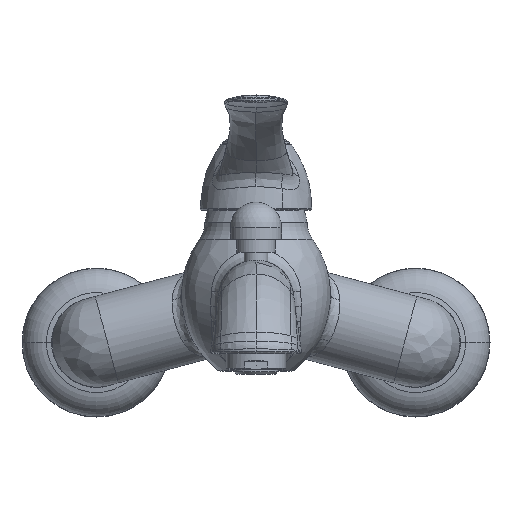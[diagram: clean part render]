
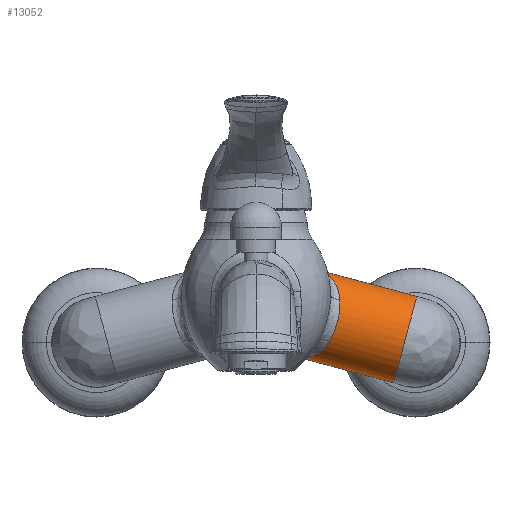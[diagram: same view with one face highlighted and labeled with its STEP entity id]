
A CAD part, top view. The second image highlights one B-rep face of the part: STEP entity #13052.
In plain terms, the highlighted cylindrical face has radius 21 mm (diameter 42 mm), a partial arc.
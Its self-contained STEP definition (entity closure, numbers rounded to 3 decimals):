
#2111=CARTESIAN_POINT('',(39.378,-1.506,23.415));
#2112=CARTESIAN_POINT('',(39.403,-1.915,23.628));
#2113=CARTESIAN_POINT('',(39.433,-2.741,24.03));
#2114=CARTESIAN_POINT('',(39.424,-3.999,24.554));
#2115=CARTESIAN_POINT('',(39.361,-5.272,24.999));
#2116=CARTESIAN_POINT('',(39.247,-6.554,25.364));
#2117=CARTESIAN_POINT('',(39.084,-7.84,25.649));
#2118=CARTESIAN_POINT('',(38.874,-9.127,25.852));
#2119=CARTESIAN_POINT('',(38.618,-10.411,25.974));
#2120=CARTESIAN_POINT('',(38.319,-11.687,26.014));
#2121=CARTESIAN_POINT('',(37.976,-12.951,25.972));
#2122=CARTESIAN_POINT('',(37.592,-14.199,25.848));
#2123=CARTESIAN_POINT('',(37.167,-15.426,25.644));
#2124=CARTESIAN_POINT('',(36.702,-16.629,25.358));
#2125=CARTESIAN_POINT('',(36.198,-17.802,24.993));
#2126=CARTESIAN_POINT('',(35.655,-18.94,24.548));
#2127=CARTESIAN_POINT('',(35.073,-20.038,24.026));
#2128=CARTESIAN_POINT('',(34.661,-20.741,23.627));
#2129=CARTESIAN_POINT('',(34.448,-21.083,23.415));
#2131=CARTESIAN_POINT('',(27.897,12.862,5.));
#2132=CARTESIAN_POINT('',(28.425,12.72,5.479));
#2133=CARTESIAN_POINT('',(29.434,12.416,6.441));
#2134=CARTESIAN_POINT('',(30.812,11.892,7.884));
#2135=CARTESIAN_POINT('',(32.062,11.3,9.313));
#2136=CARTESIAN_POINT('',(33.19,10.641,10.717));
#2137=CARTESIAN_POINT('',(34.202,9.915,12.087));
#2138=CARTESIAN_POINT('',(35.106,9.127,13.416));
#2139=CARTESIAN_POINT('',(35.907,8.277,14.697));
#2140=CARTESIAN_POINT('',(36.613,7.371,15.926));
#2141=CARTESIAN_POINT('',(37.228,6.411,17.099));
#2142=CARTESIAN_POINT('',(37.758,5.4,18.21));
#2143=CARTESIAN_POINT('',(38.208,4.343,19.257));
#2144=CARTESIAN_POINT('',(38.581,3.242,20.236));
#2145=CARTESIAN_POINT('',(38.882,2.104,21.146));
#2146=CARTESIAN_POINT('',(39.115,0.93,21.982));
#2147=CARTESIAN_POINT('',(39.282,-0.273,
22.744));
#2148=CARTESIAN_POINT('',(39.353,-1.093,23.2));
#2149=CARTESIAN_POINT('',(39.378,-1.506,23.415));
#2151=CARTESIAN_POINT('',(70.17,-20.206,5.));
#2152=DIRECTION('',(-0.966,0.259,0.));
#2153=DIRECTION('',(-0.259,-0.966,0.));
#2154=AXIS2_PLACEMENT_3D('',#2151,#2152,#2153);
#2156=DIRECTION('',(0.966,-0.259,0.));
#2157=VECTOR('',#2156,49.772);
#2158=CARTESIAN_POINT('',(16.659,-27.608,5.));
#2159=LINE('',#2158,#2157);
#2160=CARTESIAN_POINT('',(34.448,-21.083,23.415));
#2161=CARTESIAN_POINT('',(34.237,-21.423,23.206));
#2162=CARTESIAN_POINT('',(33.803,-22.086,22.762));
#2163=CARTESIAN_POINT('',(33.115,-23.027,22.027));
#2164=CARTESIAN_POINT('',(32.388,-23.909,21.223));
#2165=CARTESIAN_POINT('',(31.622,-24.729,20.355));
#2166=CARTESIAN_POINT('',(30.815,-25.48,19.425));
#2167=CARTESIAN_POINT('',(29.965,-26.159,18.437));
#2168=CARTESIAN_POINT('',(29.072,-26.762,17.395));
#2169=CARTESIAN_POINT('',(28.131,-27.282,16.302));
#2170=CARTESIAN_POINT('',(27.138,-27.717,15.163));
#2171=CARTESIAN_POINT('',(26.091,-28.062,13.983));
#2172=CARTESIAN_POINT('',(24.983,-28.314,12.764));
#2173=CARTESIAN_POINT('',(23.808,-28.467,11.513));
#2174=CARTESIAN_POINT('',(22.559,-28.518,10.234));
#2175=CARTESIAN_POINT('',(21.229,-28.463,8.933));
#2176=CARTESIAN_POINT('',(19.808,-28.297,7.618));
#2177=CARTESIAN_POINT('',(18.293,-28.019,6.301));
#2178=CARTESIAN_POINT('',(17.215,-27.757,5.431));
#2179=CARTESIAN_POINT('',(16.659,-27.608,5.));
#2186=CARTESIAN_POINT('',(27.897,12.862,5.));
#2197=DIRECTION('',(0.966,-0.259,0.));
#2198=VECTOR('',#2197,49.391);
#2199=CARTESIAN_POINT('',(27.897,12.862,5.));
#2200=LINE('',#2199,#2198);
#7305=CARTESIAN_POINT('',(64.735,-40.49,5.));
#7306=CARTESIAN_POINT('',(75.606,0.079,5.));
#7307=VERTEX_POINT('',#7305);
#7308=VERTEX_POINT('',#7306);
#7438=VERTEX_POINT('',#2111);
#7439=VERTEX_POINT('',#2129);
#7441=VERTEX_POINT('',#2179);
#7451=VERTEX_POINT('',#2186);
#13037=CARTESIAN_POINT('',(5.435,-2.86,5.));
#13038=DIRECTION('',(-0.966,0.259,0.));
#13039=DIRECTION('',(0.,0.,1.));
#13040=AXIS2_PLACEMENT_3D('',#13037,#13038,#13039);
#13041=CYLINDRICAL_SURFACE('',#13040,21.);
#13042=ORIENTED_EDGE('',*,*,#12589,.F.);
#13043=ORIENTED_EDGE('',*,*,#12655,.F.);
#13045=ORIENTED_EDGE('',*,*,#13044,.T.);
#13047=ORIENTED_EDGE('',*,*,#13046,.F.);
#13048=ORIENTED_EDGE('',*,*,#13028,.F.);
#13049=ORIENTED_EDGE('',*,*,#12542,.F.);
#13050=EDGE_LOOP('',(#13042,#13043,#13045,#13047,#13048,#13049));
#13051=FACE_OUTER_BOUND('',#13050,.F.);
#13052=ADVANCED_FACE('',(#13051),#13041,.T.);
#2130=B_SPLINE_CURVE_WITH_KNOTS('',3,(#2111,#2112,#2113,#2114,#2115,#2116,#2117,
#2118,#2119,#2120,#2121,#2122,#2123,#2124,#2125,#2126,#2127,#2128,#2129),
.UNSPECIFIED.,.F.,.F.,(4,1,1,1,1,1,1,1,1,1,1,1,1,1,1,1,4),(0.,0.063,0.125,
0.188,0.25,0.313,0.375,0.438,0.5,0.563,0.625,0.688,
0.75,0.813,0.875,0.938,1.),.UNSPECIFIED.);
#2150=B_SPLINE_CURVE_WITH_KNOTS('',3,(#2131,#2132,#2133,#2134,#2135,#2136,#2137,
#2138,#2139,#2140,#2141,#2142,#2143,#2144,#2145,#2146,#2147,#2148,#2149),
.UNSPECIFIED.,.F.,.F.,(4,1,1,1,1,1,1,1,1,1,1,1,1,1,1,1,4),(0.,0.063,0.125,
0.188,0.25,0.313,0.375,0.438,0.5,0.563,0.625,0.688,
0.75,0.813,0.875,0.938,1.),.UNSPECIFIED.);
#2155=CIRCLE('',#2154,21.);
#2180=B_SPLINE_CURVE_WITH_KNOTS('',3,(#2160,#2161,#2162,#2163,#2164,#2165,#2166,
#2167,#2168,#2169,#2170,#2171,#2172,#2173,#2174,#2175,#2176,#2177,#2178,#2179),
.UNSPECIFIED.,.F.,.F.,(4,1,1,1,1,1,1,1,1,1,1,1,1,1,1,1,1,4),(0.,
0.059,0.118,0.176,0.235,
0.294,0.353,0.412,0.471,
0.529,0.588,0.647,0.706,
0.765,0.824,0.882,0.941,1.),
.UNSPECIFIED.);
#12542=EDGE_CURVE('',#7439,#7441,#2180,.T.);
#12589=EDGE_CURVE('',#7438,#7439,#2130,.T.);
#12655=EDGE_CURVE('',#7451,#7438,#2150,.T.);
#13028=EDGE_CURVE('',#7441,#7307,#2159,.T.);
#13044=EDGE_CURVE('',#7451,#7308,#2200,.T.);
#13046=EDGE_CURVE('',#7307,#7308,#2155,.T.);
